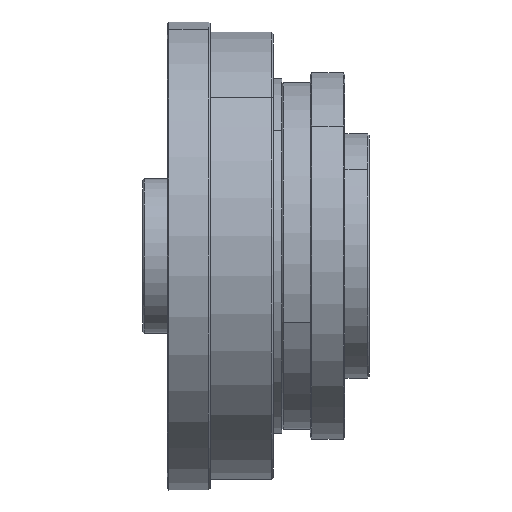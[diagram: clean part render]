
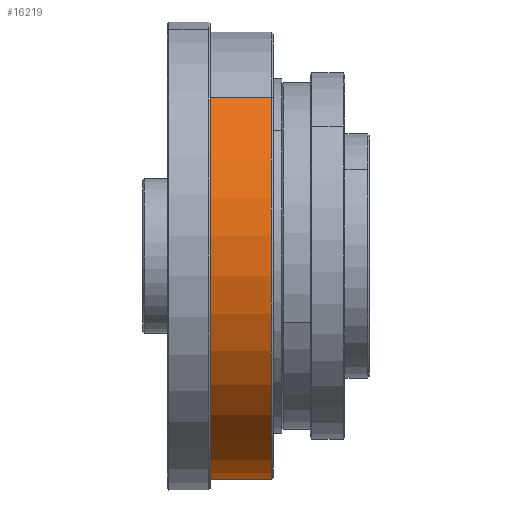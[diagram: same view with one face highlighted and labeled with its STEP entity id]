
A CAD part, front view. The second image highlights one B-rep face of the part: STEP entity #16219.
In plain terms, the highlighted cylindrical face has radius 55 mm (diameter 110 mm), a partial arc.
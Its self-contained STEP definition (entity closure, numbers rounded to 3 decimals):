
#623 = CARTESIAN_POINT ( 'NONE',  ( -98.514, 38.891, -38.891 ) ) ;
#1290 = DIRECTION ( 'NONE',  ( 0., 0.707, -0.707 ) ) ;
#2462 = VERTEX_POINT ( 'NONE', #24433 ) ;
#3587 = AXIS2_PLACEMENT_3D ( 'NONE', #18834, #15264, #36567 ) ;
#3739 = VERTEX_POINT ( 'NONE', #12720 ) ;
#4640 = VECTOR ( 'NONE', #34800, 1000. ) ;
#4917 = CARTESIAN_POINT ( 'NONE',  ( -41.7, 0., 0. ) ) ;
#5591 = EDGE_CURVE ( 'NONE', #32827, #2462, #27934, .T. ) ;
#8497 = DIRECTION ( 'NONE',  ( 0., -0.707, 0.707 ) ) ;
#12043 = DIRECTION ( 'NONE',  ( -1., 0., 0. ) ) ;
#12214 = EDGE_LOOP ( 'NONE', ( #25103, #26681, #28320, #39672 ) ) ;
#12720 = CARTESIAN_POINT ( 'NONE',  ( -41.7, -38.891, 38.891 ) ) ;
#13636 = CARTESIAN_POINT ( 'NONE',  ( -98.514, -38.891, 38.891 ) ) ;
#15264 = DIRECTION ( 'NONE',  ( -1., 0., 0. ) ) ;
#15560 = FACE_OUTER_BOUND ( 'NONE', #12214, .T. ) ;
#16219 = ADVANCED_FACE ( 'NONE', ( #15560 ), #33374, .T. ) ;
#16375 = AXIS2_PLACEMENT_3D ( 'NONE', #19024, #12043, #1290 ) ;
#16793 = VECTOR ( 'NONE', #39493, 1000. ) ;
#18834 = CARTESIAN_POINT ( 'NONE',  ( -24., 0., 0. ) ) ;
#19024 = CARTESIAN_POINT ( 'NONE',  ( -98.514, 0., 0. ) ) ;
#21609 = EDGE_CURVE ( 'NONE', #2462, #3739, #41362, .T. ) ;
#24433 = CARTESIAN_POINT ( 'NONE',  ( -24., -38.891, 38.891 ) ) ;
#24979 = CARTESIAN_POINT ( 'NONE',  ( -41.7, 38.891, -38.891 ) ) ;
#25103 = ORIENTED_EDGE ( 'NONE', *, *, #5591, .T. ) ;
#25469 = CARTESIAN_POINT ( 'NONE',  ( -24., 38.891, -38.891 ) ) ;
#26336 = EDGE_CURVE ( 'NONE', #32827, #43148, #44073, .T. ) ;
#26681 = ORIENTED_EDGE ( 'NONE', *, *, #21609, .T. ) ;
#27934 = CIRCLE ( 'NONE', #3587, 55. ) ;
#28320 = ORIENTED_EDGE ( 'NONE', *, *, #37710, .T. ) ;
#29762 = DIRECTION ( 'NONE',  ( 1., 0., 0. ) ) ;
#32827 = VERTEX_POINT ( 'NONE', #25469 ) ;
#33374 = CYLINDRICAL_SURFACE ( 'NONE', #16375, 55. ) ;
#34650 = AXIS2_PLACEMENT_3D ( 'NONE', #4917, #29762, #8497 ) ;
#34800 = DIRECTION ( 'NONE',  ( -1., 0., 0. ) ) ;
#36537 = CIRCLE ( 'NONE', #34650, 55. ) ;
#36567 = DIRECTION ( 'NONE',  ( 0., 0.707, -0.707 ) ) ;
#37710 = EDGE_CURVE ( 'NONE', #3739, #43148, #36537, .T. ) ;
#39493 = DIRECTION ( 'NONE',  ( -1., 0., 0. ) ) ;
#39672 = ORIENTED_EDGE ( 'NONE', *, *, #26336, .F. ) ;
#41362 = LINE ( 'NONE', #13636, #4640 ) ;
#43148 = VERTEX_POINT ( 'NONE', #24979 ) ;
#44073 = LINE ( 'NONE', #623, #16793 ) ;
